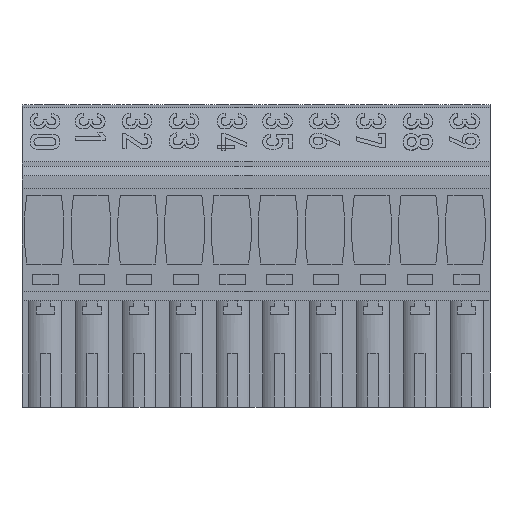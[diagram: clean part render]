
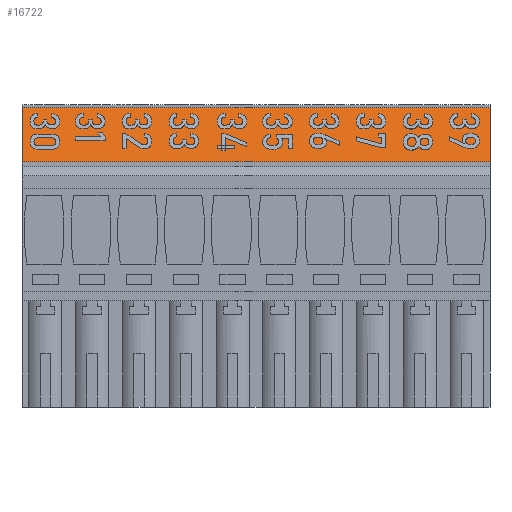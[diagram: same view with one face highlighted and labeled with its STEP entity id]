
A CAD part, front view. The second image highlights one B-rep face of the part: STEP entity #16722.
In plain terms, the highlighted planar face has unit normal (0, -0.906, 0.423).
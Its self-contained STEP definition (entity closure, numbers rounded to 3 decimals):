
#6453 = PLANE('',#6454);
#6454 = AXIS2_PLACEMENT_3D('',#6455,#6456,#6457);
#6455 = CARTESIAN_POINT('',(0.,0.,0.));
#6456 = DIRECTION('',(1.,0.,0.));
#6457 = DIRECTION('',(0.,0.,1.));
#6674 = VERTEX_POINT('',#6675);
#6675 = CARTESIAN_POINT('',(0.,-7.181,22.4));
#6689 = PLANE('',#6690);
#6690 = AXIS2_PLACEMENT_3D('',#6691,#6692,#6693);
#6691 = CARTESIAN_POINT('',(-21.,-7.181,22.4));
#6692 = DIRECTION('',(0.,-1.,0.));
#6693 = DIRECTION('',(0.,0.,1.));
#6701 = EDGE_CURVE('',#6702,#6674,#6704,.T.);
#6702 = VERTEX_POINT('',#6703);
#6703 = CARTESIAN_POINT('',(0.,-9.07,18.35));
#6704 = SURFACE_CURVE('',#6705,(#6709,#6716),.PCURVE_S1.);
#6705 = LINE('',#6706,#6707);
#6706 = CARTESIAN_POINT('',(0.,-8.126,20.375));
#6707 = VECTOR('',#6708,1.);
#6708 = DIRECTION('',(0.,0.423,0.906));
#6709 = PCURVE('',#6453,#6710);
#6710 = DEFINITIONAL_REPRESENTATION('',(#6711),#6715);
#6711 = LINE('',#6712,#6713);
#6712 = CARTESIAN_POINT('',(20.375,8.126));
#6713 = VECTOR('',#6714,1.);
#6714 = DIRECTION('',(0.906,-0.423));
#6715 = ( GEOMETRIC_REPRESENTATION_CONTEXT(2) 
PARAMETRIC_REPRESENTATION_CONTEXT() REPRESENTATION_CONTEXT('2D SPACE',''
  ) );
#6716 = PCURVE('',#6717,#6722);
#6717 = PLANE('',#6718);
#6718 = AXIS2_PLACEMENT_3D('',#6719,#6720,#6721);
#6719 = CARTESIAN_POINT('',(-21.,-9.07,18.35));
#6720 = DIRECTION('',(0.,-0.906,0.423));
#6721 = DIRECTION('',(0.,0.423,0.906));
#6722 = DEFINITIONAL_REPRESENTATION('',(#6723),#6727);
#6723 = LINE('',#6724,#6725);
#6724 = CARTESIAN_POINT('',(2.234,-21.));
#6725 = VECTOR('',#6726,1.);
#6726 = DIRECTION('',(1.,0.));
#6727 = ( GEOMETRIC_REPRESENTATION_CONTEXT(2) 
PARAMETRIC_REPRESENTATION_CONTEXT() REPRESENTATION_CONTEXT('2D SPACE',''
  ) );
#6745 = PLANE('',#6746);
#6746 = AXIS2_PLACEMENT_3D('',#6747,#6748,#6749);
#6747 = CARTESIAN_POINT('',(-21.,-8.23,18.35));
#6748 = DIRECTION('',(0.,0.,-1.));
#6749 = DIRECTION('',(0.,-1.,0.));
#9715 = PLANE('',#9716);
#9716 = AXIS2_PLACEMENT_3D('',#9717,#9718,#9719);
#9717 = CARTESIAN_POINT('',(-35.,-5.03,8.65));
#9718 = DIRECTION('',(-1.,0.,0.));
#9719 = DIRECTION('',(0.,1.,0.));
#16680 = VERTEX_POINT('',#16681);
#16681 = CARTESIAN_POINT('',(-35.,-7.181,22.4));
#16702 = EDGE_CURVE('',#6674,#16680,#16703,.T.);
#16703 = SURFACE_CURVE('',#16704,(#16708,#16715),.PCURVE_S1.);
#16704 = LINE('',#16705,#16706);
#16705 = CARTESIAN_POINT('',(-17.5,-7.181,22.4));
#16706 = VECTOR('',#16707,1.);
#16707 = DIRECTION('',(-1.,0.,0.));
#16708 = PCURVE('',#6689,#16709);
#16709 = DEFINITIONAL_REPRESENTATION('',(#16710),#16714);
#16710 = LINE('',#16711,#16712);
#16711 = CARTESIAN_POINT('',(0.,-3.5));
#16712 = VECTOR('',#16713,1.);
#16713 = DIRECTION('',(0.,1.));
#16714 = ( GEOMETRIC_REPRESENTATION_CONTEXT(2) 
PARAMETRIC_REPRESENTATION_CONTEXT() REPRESENTATION_CONTEXT('2D SPACE',''
  ) );
#16715 = PCURVE('',#6717,#16716);
#16716 = DEFINITIONAL_REPRESENTATION('',(#16717),#16721);
#16717 = LINE('',#16718,#16719);
#16718 = CARTESIAN_POINT('',(4.469,-3.5));
#16719 = VECTOR('',#16720,1.);
#16720 = DIRECTION('',(0.,1.));
#16721 = ( GEOMETRIC_REPRESENTATION_CONTEXT(2) 
PARAMETRIC_REPRESENTATION_CONTEXT() REPRESENTATION_CONTEXT('2D SPACE',''
  ) );
#16722 = ADVANCED_FACE('',(#16723),#6717,.T.);
#16723 = FACE_BOUND('',#16724,.T.);
#16724 = EDGE_LOOP('',(#16725,#16726,#16727,#16750));
#16725 = ORIENTED_EDGE('',*,*,#6701,.T.);
#16726 = ORIENTED_EDGE('',*,*,#16702,.T.);
#16727 = ORIENTED_EDGE('',*,*,#16728,.F.);
#16728 = EDGE_CURVE('',#16729,#16680,#16731,.T.);
#16729 = VERTEX_POINT('',#16730);
#16730 = CARTESIAN_POINT('',(-35.,-9.07,18.35));
#16731 = SURFACE_CURVE('',#16732,(#16736,#16743),.PCURVE_S1.);
#16732 = LINE('',#16733,#16734);
#16733 = CARTESIAN_POINT('',(-35.,-8.126,20.375));
#16734 = VECTOR('',#16735,1.);
#16735 = DIRECTION('',(0.,0.423,0.906));
#16736 = PCURVE('',#6717,#16737);
#16737 = DEFINITIONAL_REPRESENTATION('',(#16738),#16742);
#16738 = LINE('',#16739,#16740);
#16739 = CARTESIAN_POINT('',(2.234,14.));
#16740 = VECTOR('',#16741,1.);
#16741 = DIRECTION('',(1.,0.));
#16742 = ( GEOMETRIC_REPRESENTATION_CONTEXT(2) 
PARAMETRIC_REPRESENTATION_CONTEXT() REPRESENTATION_CONTEXT('2D SPACE',''
  ) );
#16743 = PCURVE('',#9715,#16744);
#16744 = DEFINITIONAL_REPRESENTATION('',(#16745),#16749);
#16745 = LINE('',#16746,#16747);
#16746 = CARTESIAN_POINT('',(-3.096,-11.725));
#16747 = VECTOR('',#16748,1.);
#16748 = DIRECTION('',(0.423,-0.906));
#16749 = ( GEOMETRIC_REPRESENTATION_CONTEXT(2) 
PARAMETRIC_REPRESENTATION_CONTEXT() REPRESENTATION_CONTEXT('2D SPACE',''
  ) );
#16750 = ORIENTED_EDGE('',*,*,#16751,.F.);
#16751 = EDGE_CURVE('',#6702,#16729,#16752,.T.);
#16752 = SURFACE_CURVE('',#16753,(#16757,#16764),.PCURVE_S1.);
#16753 = LINE('',#16754,#16755);
#16754 = CARTESIAN_POINT('',(-17.5,-9.07,18.35));
#16755 = VECTOR('',#16756,1.);
#16756 = DIRECTION('',(-1.,0.,0.));
#16757 = PCURVE('',#6717,#16758);
#16758 = DEFINITIONAL_REPRESENTATION('',(#16759),#16763);
#16759 = LINE('',#16760,#16761);
#16760 = CARTESIAN_POINT('',(0.,-3.5));
#16761 = VECTOR('',#16762,1.);
#16762 = DIRECTION('',(0.,1.));
#16763 = ( GEOMETRIC_REPRESENTATION_CONTEXT(2) 
PARAMETRIC_REPRESENTATION_CONTEXT() REPRESENTATION_CONTEXT('2D SPACE',''
  ) );
#16764 = PCURVE('',#6745,#16765);
#16765 = DEFINITIONAL_REPRESENTATION('',(#16766),#16770);
#16766 = LINE('',#16767,#16768);
#16767 = CARTESIAN_POINT('',(0.84,-3.5));
#16768 = VECTOR('',#16769,1.);
#16769 = DIRECTION('',(0.,1.));
#16770 = ( GEOMETRIC_REPRESENTATION_CONTEXT(2) 
PARAMETRIC_REPRESENTATION_CONTEXT() REPRESENTATION_CONTEXT('2D SPACE',''
  ) );
